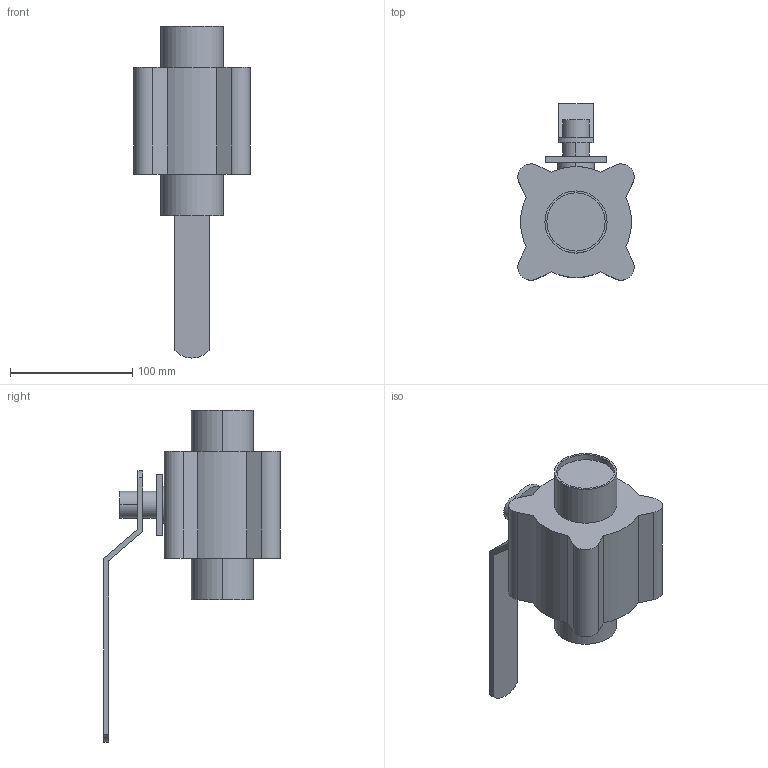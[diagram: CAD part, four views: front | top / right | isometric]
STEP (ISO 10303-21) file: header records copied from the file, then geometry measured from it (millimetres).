
FILE_DESCRIPTION(('Creo Elements/Direct Modeling STEP Export'),'2;1');
FILE_NAME('BLV1-2T-H-12S.stp','2019-05-10T 8:19:00',(''),(''),'Creo Elements/Direct Modeling STEP processor for AP214 (Solid Model)','Creo Elements/Direct Modeling 19.0F 14-Feb-2017 (C) Parametric Technology GmbH','');
FILE_SCHEMA(('AUTOMOTIVE_DESIGN { 1 0 10303 214 1 1 1 1 }'));
Length unit declared in the file: millimetre
Products named in the file (2): BLV1-2T-H-12S
Assembly tree (1 placements, depth 2):
  BLV1-2T-H-12S
    BLV1-2T-H-12S
Bounding box: 95.12 x 144.56 x 271.5 mm (x, y, z)
Volume: 866712.9 mm3; surface area: 82452.8 mm2
Topology: 1 solids, 1 shells, 53 faces, 126 edges, 84 vertices
Faces by surface type: plane 29, cylinder 24
Entity records: 1597 total; most frequent: CARTESIAN_POINT 327, DIRECTION 254, ORIENTED_EDGE 252, EDGE_CURVE 126, AXIS2_PLACEMENT_3D 88, VERTEX_POINT 84, VECTOR 78, LINE 78
